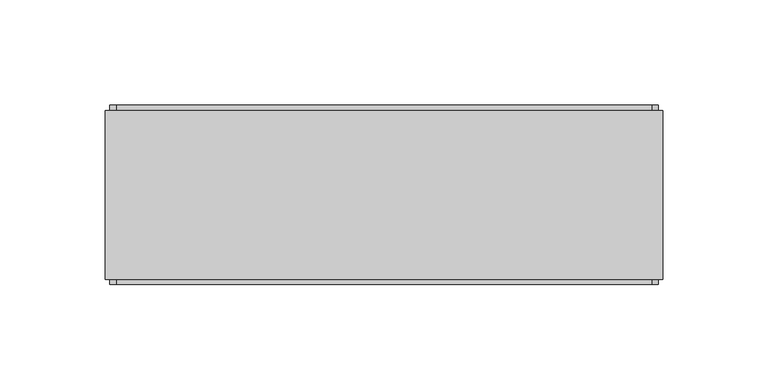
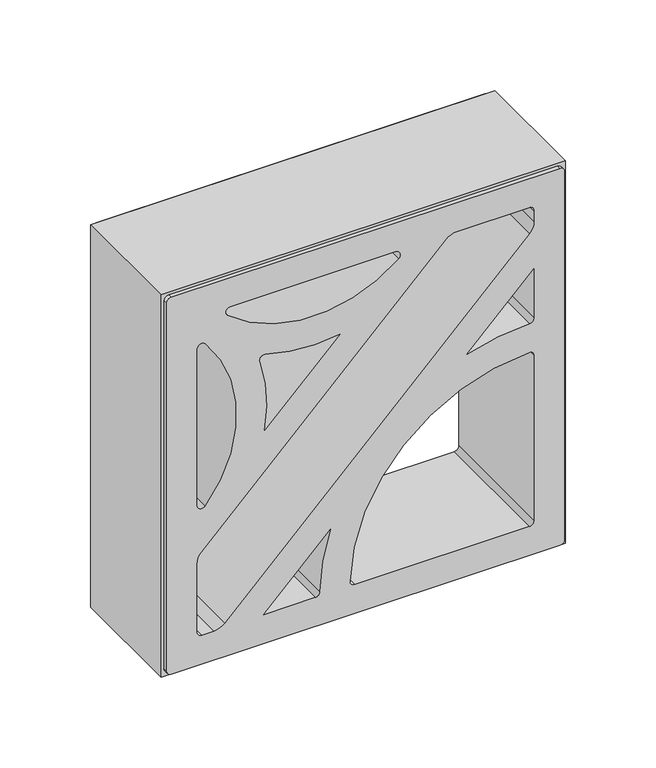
"""IFC4 building model written with IfcOpenShell, lengths in millimetres: plate geometry, PORTOBELLO - STUDIO CRAFT 5 26X26 (PAINEL CORTINA) : STUDIO CRAFT 5."""

from ifc_helpers import new_model, si_unit, point, frame, frame_2d, origin, place, context, project, spatial, polyline, circle_curve, trimmed, segment, composite_curve, outline, extrude, source, transform, mapped, element, save


def plate_92f93356(model_context):
    return source(origin(), model_context, "Body", "SweptSolid", [
        extrude(outline(composite_curve([segment(trimmed(circle_curve(frame_2d((5.0, -127.0)), 3.0), [point((5.0, -130.0))], [point((2.0, -127.0))], False, "CARTESIAN"), True, "CONTINUOUS"), segment(polyline([(2.0, -127.0), (2.0, 127.0)]), True, "CONTINUOUS"), segment(trimmed(circle_curve(frame_2d((5.0, 127.0)), 3.0), [point((2.0, 127.0))], [point((5.0, 130.0))], False, "CARTESIAN"), True, "CONTINUOUS"), segment(polyline([(5.0, 130.0), (259.0, 130.0)]), True, "CONTINUOUS"), segment(trimmed(circle_curve(frame_2d((259.0, 127.0)), 3.0), [point((259.0, 130.0))], [point((262.0, 127.0))], False, "CARTESIAN"), True, "CONTINUOUS"), segment(polyline([(262.0, 127.0), (262.0, -127.0)]), True, "CONTINUOUS"), segment(trimmed(circle_curve(frame_2d((259.0, -127.0)), 3.0), [point((262.0, -127.0))], [point((259.0, -130.0))], False, "CARTESIAN"), True, "CONTINUOUS"), segment(polyline([(259.0, -130.0), (5.0, -130.0)]), True, "CONTINUOUS")], self_intersect=False), holes=[composite_curve([segment(trimmed(circle_curve(frame_2d((72.2063086, -100.0)), 10.0), [point((72.2063086, -110.0))], [point((79.2773764, -107.0710678))], True, "CARTESIAN"), True, "CONTINUOUS"), segment(polyline([(79.2773764, -107.0710678), (239.0710678, 52.7226236)]), True, "CONTINUOUS"), segment(trimmed(circle_curve(frame_2d((232.0, 59.7936914)), 10.0), [point((239.0710678, 52.7226236))], [point((242.0, 59.7936914))], True, "CARTESIAN"), True, "CONTINUOUS"), segment(polyline([(242.0, 59.7936914), (242.0, 107.0)]), True, "CONTINUOUS"), segment(trimmed(circle_curve(frame_2d((239.0, 107.0)), 3.0), [point((242.0, 107.0))], [point((239.0, 110.0))], True, "CARTESIAN"), True, "CONTINUOUS"), segment(polyline([(239.0, 110.0), (231.1421356, 110.0)]), True, "CONTINUOUS"), segment(trimmed(circle_curve(frame_2d((231.1421356, 100.0)), 10.0), [point((231.1421356, 110.0))], [point((224.0710678, 107.0710678))], True, "CARTESIAN"), True, "CONTINUOUS"), segment(polyline([(224.0710678, 107.0710678), (24.9289322, -92.0710678)]), True, "CONTINUOUS"), segment(trimmed(circle_curve(frame_2d((32.0, -99.1421356)), 10.0), [point((24.9289322, -92.0710678))], [point((22.0, -99.1421356))], True, "CARTESIAN"), True, "CONTINUOUS"), segment(polyline([(22.0, -99.1421356), (22.0, -107.0)]), True, "CONTINUOUS"), segment(trimmed(circle_curve(frame_2d((25.0, -107.0)), 3.0), [point((22.0, -107.0))], [point((25.0, -110.0))], True, "CARTESIAN"), True, "CONTINUOUS"), segment(polyline([(25.0, -110.0), (72.2063086, -110.0)]), True, "CONTINUOUS")], self_intersect=False), composite_curve([segment(trimmed(circle_curve(frame_2d((239.0, 19.6607631)), 3.0), [point((242.0, 19.6607631))], [point((236.6996222, 21.5864478))], True, "CARTESIAN"), True, "CONTINUOUS"), segment(trimmed(circle_curve(frame_2d((303.3949054, -34.2452899)), 86.9795593), [point((236.6996222, 21.5864478))], [point((236.6996222, -90.0770276))], True, "CARTESIAN"), True, "CONTINUOUS"), segment(trimmed(circle_curve(frame_2d((239.0, -88.1513429)), 3.0), [point((236.6996222, -90.0770276))], [point((242.0, -88.1513429))], True, "CARTESIAN"), True, "CONTINUOUS"), segment(polyline([(242.0, -88.1513429), (242.0, 19.6607631)]), True, "CONTINUOUS")], self_intersect=False), composite_curve([segment(trimmed(circle_curve(frame_2d((25.0, 107.0)), 3.0), [point((25.0, 110.0))], [point((22.0, 107.0))], True, "CARTESIAN"), True, "CONTINUOUS"), segment(polyline([(22.0, 107.0), (22.0, -6.9625746)]), True, "CONTINUOUS"), segment(trimmed(circle_curve(frame_2d((25.0, -6.9625746)), 3.0), [point((22.0, -6.9625746))], [point((25.0769224, -9.9615882))], True, "CARTESIAN"), True, "CONTINUOUS"), segment(trimmed(circle_curve(frame_2d((22.0, 110.0)), 120.0010421), [point((25.0769224, -9.9615882))], [point((141.9615882, 106.9230776))], True, "CARTESIAN"), True, "CONTINUOUS"), segment(trimmed(circle_curve(frame_2d((138.9625746, 107.0)), 3.0), [point((141.9615882, 106.9230776))], [point((138.9625746, 110.0))], True, "CARTESIAN"), True, "CONTINUOUS"), segment(polyline([(138.9625746, 110.0), (25.0, 110.0)]), True, "CONTINUOUS")], self_intersect=False), composite_curve([segment(trimmed(circle_curve(frame_2d((166.2452899, -171.3949054)), 106.9795593), [point((148.7824745, -65.8502409))], [point((197.272397, -69.0135363))], False, "CARTESIAN"), True, "CONTINUOUS"), segment(trimmed(circle_curve(frame_2d((198.1424821, -66.1424821)), 3.0), [point((197.272397, -69.0135363))], [point((201.0135363, -65.272397))], True, "CARTESIAN"), True, "CONTINUOUS"), segment(trimmed(circle_curve(frame_2d((303.3949054, -34.2452899)), 106.9795593), [point((201.0135363, -65.272397))], [point((197.8502409, -16.7824745))], False, "CARTESIAN"), True, "CONTINUOUS"), segment(polyline([(197.8502409, -16.7824745), (148.7824745, -65.8502409)]), True, "CONTINUOUS")], self_intersect=False), composite_curve([segment(trimmed(circle_curve(frame_2d((112.3392369, -107.0)), 3.0), [point((110.4135522, -104.6996222))], [point((112.3392369, -110.0))], True, "CARTESIAN"), True, "CONTINUOUS"), segment(polyline([(112.3392369, -110.0), (220.1513429, -110.0)]), True, "CONTINUOUS"), segment(trimmed(circle_curve(frame_2d((220.1513429, -107.0)), 3.0), [point((220.1513429, -110.0))], [point((222.0770276, -104.6996222))], True, "CARTESIAN"), True, "CONTINUOUS"), segment(trimmed(circle_curve(frame_2d((166.2452899, -171.3949054)), 86.9795593), [point((222.0770276, -104.6996222))], [point((110.4135522, -104.6996222))], True, "CARTESIAN"), True, "CONTINUOUS")], self_intersect=False), composite_curve([segment(polyline([(155.0012704, 66.2855416), (198.7157288, 110.0), (164.9695703, 110.0)]), True, "CONTINUOUS"), segment(trimmed(circle_curve(frame_2d((164.9695703, 107.0)), 3.0), [point((164.9695703, 110.0))], [point((161.9702306, 107.0629366))], True, "CARTESIAN"), True, "CONTINUOUS"), segment(trimmed(circle_curve(frame_2d((22.0, 110.0)), 140.0010421), [point((161.9702306, 107.0629366))], [point((155.0012704, 66.2855416))], False, "CARTESIAN"), True, "CONTINUOUS")], self_intersect=False), composite_curve([segment(polyline([(22.0, -66.7157288), (65.7144584, -23.0012704)]), True, "CONTINUOUS"), segment(trimmed(circle_curve(frame_2d((22.0, 110.0)), 140.0010421), [point((65.7144584, -23.0012704))], [point((24.9370634, -29.9702306))], False, "CARTESIAN"), True, "CONTINUOUS"), segment(trimmed(circle_curve(frame_2d((25.0, -32.9695703)), 3.0), [point((24.9370634, -29.9702306))], [point((22.0, -32.9695703))], True, "CARTESIAN"), True, "CONTINUOUS"), segment(polyline([(22.0, -32.9695703), (22.0, -66.7157288)]), True, "CONTINUOUS")], self_intersect=False)]), frame((0.0, -42.5, 0.0), z_axis=(0.0, 1.0, 0.0), x_axis=(0.0, 0.0, 1.0)), (0.0, 0.0, 1.0), 85.0),
        extrude(outline(polyline([(264.0, -132.0), (0.0, -132.0), (0.0, 132.0), (264.0, 132.0), (264.0, -132.0)]), holes=[composite_curve([segment(trimmed(circle_curve(frame_2d((5.0, -127.0)), 3.0), [point((2.0, -127.0))], [point((5.0, -130.0))], True, "CARTESIAN"), True, "CONTINUOUS"), segment(polyline([(5.0, -130.0), (259.0, -130.0)]), True, "CONTINUOUS"), segment(trimmed(circle_curve(frame_2d((259.0, -127.0)), 3.0), [point((259.0, -130.0))], [point((262.0, -127.0))], True, "CARTESIAN"), True, "CONTINUOUS"), segment(polyline([(262.0, -127.0), (262.0, 127.0)]), True, "CONTINUOUS"), segment(trimmed(circle_curve(frame_2d((259.0, 127.0)), 3.0), [point((262.0, 127.0))], [point((259.0, 130.0))], True, "CARTESIAN"), True, "CONTINUOUS"), segment(polyline([(259.0, 130.0), (5.0, 130.0)]), True, "CONTINUOUS"), segment(trimmed(circle_curve(frame_2d((5.0, 127.0)), 3.0), [point((5.0, 130.0))], [point((2.0, 127.0))], True, "CARTESIAN"), True, "CONTINUOUS"), segment(polyline([(2.0, 127.0), (2.0, -127.0)]), True, "CONTINUOUS")], self_intersect=False)]), frame((0.0, -40.0, 0.0), z_axis=(0.0, 1.0, 0.0), x_axis=(0.0, 0.0, 1.0)), (0.0, 0.0, 1.0), 80.0),
    ])


if __name__ == "__main__":
    model = new_model("IFC4")
    model_context = context("Model", 3, world=origin())
    ifc_project = project(units=[si_unit("LENGTHUNIT", "METRE", prefix="MILLI")], contexts=[model_context])
    site = spatial("IfcSite", under=ifc_project)
    building = spatial("IfcBuilding", under=site)
    placement = place(None, origin())
    plate_shape = plate_92f93356(model_context)
    element("IfcPlate", 1, ObjectType="PORTOBELLO - STUDIO CRAFT 5 26X26 (PAINEL CORTINA) : STUDIO CRAFT 5", at=placement, inside=building, context=model_context, shape_type="MappedRepresentation", body=[
        mapped(plate_shape, transform((0.0, 0.0, 0.0), x_axis=(1.0, 0.0, 0.0), y_axis=(0.0, 1.0, 0.0), z_axis=(0.0, 0.0, 1.0))),
    ])
    save(model, "model.ifc")
